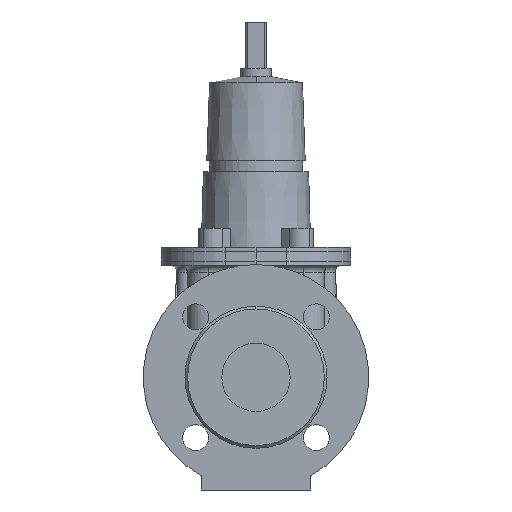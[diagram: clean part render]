
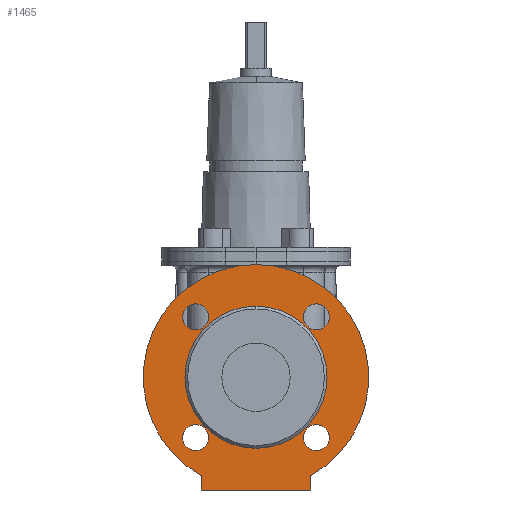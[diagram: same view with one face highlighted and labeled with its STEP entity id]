
A CAD part, left-side view. The second image highlights one B-rep face of the part: STEP entity #1465.
In plain terms, the highlighted planar face has unit normal (-1, 0, 0).
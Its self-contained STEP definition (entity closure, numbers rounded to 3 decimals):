
#1465=ADVANCED_FACE('',(#2945,#2946,#2947,#2948,#2949,#2950),#2951,.F.);
#2945=FACE_BOUND('',#4885,.T.);
#2946=FACE_BOUND('',#4886,.T.);
#2947=FACE_BOUND('',#4887,.T.);
#2948=FACE_BOUND('',#4888,.T.);
#2949=FACE_BOUND('',#4889,.T.);
#2950=FACE_OUTER_BOUND('',#4890,.T.);
#2951=PLANE('',#4891);
#4885=EDGE_LOOP('',(#7316,#7317));
#4886=EDGE_LOOP('',(#7318,#7319));
#4887=EDGE_LOOP('',(#7320,#7321));
#4888=EDGE_LOOP('',(#7322,#7323));
#4889=EDGE_LOOP('',(#7324,#7325));
#4890=EDGE_LOOP('',(#7326,#7327,#7328,#7329,#7330));
#4891=AXIS2_PLACEMENT_3D('',#7331,#7332,#7333);
#7316=ORIENTED_EDGE('',*,*,#11069,.T.);
#7317=ORIENTED_EDGE('',*,*,#10836,.T.);
#7318=ORIENTED_EDGE('',*,*,#11070,.T.);
#7319=ORIENTED_EDGE('',*,*,#11071,.T.);
#7320=ORIENTED_EDGE('',*,*,#10784,.T.);
#7321=ORIENTED_EDGE('',*,*,#11072,.T.);
#7322=ORIENTED_EDGE('',*,*,#11073,.T.);
#7323=ORIENTED_EDGE('',*,*,#11074,.T.);
#7324=ORIENTED_EDGE('',*,*,#11075,.T.);
#7325=ORIENTED_EDGE('',*,*,#11076,.T.);
#7326=ORIENTED_EDGE('',*,*,#10829,.F.);
#7327=ORIENTED_EDGE('',*,*,#11077,.F.);
#7328=ORIENTED_EDGE('',*,*,#11078,.F.);
#7329=ORIENTED_EDGE('',*,*,#10732,.F.);
#7330=ORIENTED_EDGE('',*,*,#11079,.F.);
#7331=CARTESIAN_POINT('',(2.0,0.0,0.));
#7332=DIRECTION('',(1.0,0.0,0.));
#7333=DIRECTION('',(0.,0.0,-1.0));
#10732=EDGE_CURVE('',#12733,#12735,#12736,.T.);
#10784=EDGE_CURVE('',#12815,#12817,#12819,.T.);
#10829=EDGE_CURVE('',#12892,#12890,#12894,.T.);
#10836=EDGE_CURVE('',#12903,#12901,#12904,.T.);
#11069=EDGE_CURVE('',#12901,#12903,#13265,.T.);
#11070=EDGE_CURVE('',#13266,#13267,#13268,.T.);
#11071=EDGE_CURVE('',#13267,#13266,#13269,.T.);
#11072=EDGE_CURVE('',#12817,#12815,#13270,.T.);
#11073=EDGE_CURVE('',#13271,#13272,#13273,.T.);
#11074=EDGE_CURVE('',#13272,#13271,#13274,.T.);
#11075=EDGE_CURVE('',#13275,#13276,#13277,.T.);
#11076=EDGE_CURVE('',#13276,#13275,#13278,.T.);
#11077=EDGE_CURVE('',#13279,#12892,#13280,.T.);
#11078=EDGE_CURVE('',#12735,#13279,#13281,.T.);
#11079=EDGE_CURVE('',#12890,#12733,#13282,.T.);
#12733=VERTEX_POINT('',#15359);
#12735=VERTEX_POINT('',#15362);
#12736=LINE('',#15363,#15364);
#12815=VERTEX_POINT('',#15467);
#12817=VERTEX_POINT('',#15470);
#12819=CIRCLE('',#15473,9.5);
#12890=VERTEX_POINT('',#15561);
#12892=VERTEX_POINT('',#15564);
#12894=CIRCLE('',#15567,82.5);
#12901=VERTEX_POINT('',#15575);
#12903=VERTEX_POINT('',#15578);
#12904=CIRCLE('',#15579,25.0);
#13265=CIRCLE('',#16049,25.0);
#13266=VERTEX_POINT('',#16050);
#13267=VERTEX_POINT('',#16051);
#13268=CIRCLE('',#16052,9.5);
#13269=CIRCLE('',#16053,9.5);
#13270=CIRCLE('',#16054,9.5);
#13271=VERTEX_POINT('',#16055);
#13272=VERTEX_POINT('',#16056);
#13273=CIRCLE('',#16057,9.5);
#13274=CIRCLE('',#16058,9.5);
#13275=VERTEX_POINT('',#16059);
#13276=VERTEX_POINT('',#16060);
#13277=CIRCLE('',#16061,9.5);
#13278=CIRCLE('',#16062,9.5);
#13279=VERTEX_POINT('',#16063);
#13280=LINE('',#16064,#16065);
#13281=LINE('',#16066,#16067);
#13282=CIRCLE('',#16068,82.5);
#15359=CARTESIAN_POINT('',(2.0,-40.0,-72.154));
#15362=CARTESIAN_POINT('',(2.0,-40.0,-82.5));
#15363=CARTESIAN_POINT('',(2.0,-40.0,-62.5));
#15364=VECTOR('',#18206,1.0);
#15467=CARTESIAN_POINT('',(2.0,44.194,34.694));
#15470=CARTESIAN_POINT('',(2.0,44.194,53.694));
#15473=AXIS2_PLACEMENT_3D('',#18269,#18270,#18271);
#15561=CARTESIAN_POINT('',(2.,0.,82.5));
#15564=CARTESIAN_POINT('',(2.0,40.0,-72.154));
#15567=AXIS2_PLACEMENT_3D('',#18339,#18340,#18341);
#15575=CARTESIAN_POINT('',(2.0,0.0,-25.0));
#15578=CARTESIAN_POINT('',(2.0,0.,25.0));
#15579=AXIS2_PLACEMENT_3D('',#18347,#18348,#18349);
#16049=AXIS2_PLACEMENT_3D('',#18645,#18646,#18647);
#16050=CARTESIAN_POINT('',(2.0,44.194,-53.694));
#16051=CARTESIAN_POINT('',(2.0,44.194,-34.694));
#16052=AXIS2_PLACEMENT_3D('',#18648,#18649,#18650);
#16053=AXIS2_PLACEMENT_3D('',#18651,#18652,#18653);
#16054=AXIS2_PLACEMENT_3D('',#18654,#18655,#18656);
#16055=CARTESIAN_POINT('',(2.0,-44.194,34.694));
#16056=CARTESIAN_POINT('',(2.0,-44.194,53.694));
#16057=AXIS2_PLACEMENT_3D('',#18657,#18658,#18659);
#16058=AXIS2_PLACEMENT_3D('',#18660,#18661,#18662);
#16059=CARTESIAN_POINT('',(2.0,-44.194,-53.694));
#16060=CARTESIAN_POINT('',(2.0,-44.194,-34.694));
#16061=AXIS2_PLACEMENT_3D('',#18663,#18664,#18665);
#16062=AXIS2_PLACEMENT_3D('',#18666,#18667,#18668);
#16063=CARTESIAN_POINT('',(2.0,40.0,-82.5));
#16064=CARTESIAN_POINT('',(2.0,40.0,-82.5));
#16065=VECTOR('',#18669,1.0);
#16066=CARTESIAN_POINT('',(2.0,-40.0,-82.5));
#16067=VECTOR('',#18670,1.0);
#16068=AXIS2_PLACEMENT_3D('',#18671,#18672,#18673);
#18206=DIRECTION('',(0.0,0.0,-1.0));
#18269=CARTESIAN_POINT('',(2.0,44.194,44.194));
#18270=DIRECTION('',(1.0,0.0,0.));
#18271=DIRECTION('',(0.,0.0,-1.0));
#18339=CARTESIAN_POINT('',(2.0,0.0,0.));
#18340=DIRECTION('',(1.0,0.0,0.));
#18341=DIRECTION('',(0.,0.0,-1.0));
#18347=CARTESIAN_POINT('',(2.0,0.0,0.));
#18348=DIRECTION('',(1.0,0.0,0.));
#18349=DIRECTION('',(0.,0.0,-1.0));
#18645=CARTESIAN_POINT('',(2.0,0.0,0.));
#18646=DIRECTION('',(1.0,0.0,0.));
#18647=DIRECTION('',(0.,0.0,-1.0));
#18648=CARTESIAN_POINT('',(2.0,44.194,-44.194));
#18649=DIRECTION('',(1.0,0.0,0.));
#18650=DIRECTION('',(0.,0.0,-1.0));
#18651=CARTESIAN_POINT('',(2.0,44.194,-44.194));
#18652=DIRECTION('',(1.0,0.0,0.));
#18653=DIRECTION('',(0.,0.0,-1.0));
#18654=CARTESIAN_POINT('',(2.0,44.194,44.194));
#18655=DIRECTION('',(1.0,0.0,0.));
#18656=DIRECTION('',(0.,0.0,-1.0));
#18657=CARTESIAN_POINT('',(2.0,-44.194,44.194));
#18658=DIRECTION('',(1.0,0.0,0.));
#18659=DIRECTION('',(0.,0.0,-1.0));
#18660=CARTESIAN_POINT('',(2.0,-44.194,44.194));
#18661=DIRECTION('',(1.0,0.0,0.));
#18662=DIRECTION('',(0.,0.0,-1.0));
#18663=CARTESIAN_POINT('',(2.0,-44.194,-44.194));
#18664=DIRECTION('',(1.0,0.0,0.));
#18665=DIRECTION('',(0.,0.0,-1.0));
#18666=CARTESIAN_POINT('',(2.0,-44.194,-44.194));
#18667=DIRECTION('',(1.0,0.0,0.));
#18668=DIRECTION('',(0.,0.0,-1.0));
#18669=DIRECTION('',(0.0,0.0,1.0));
#18670=DIRECTION('',(0.0,1.0,0.0));
#18671=CARTESIAN_POINT('',(2.0,0.0,0.));
#18672=DIRECTION('',(1.0,0.0,0.));
#18673=DIRECTION('',(0.,0.0,-1.0));
